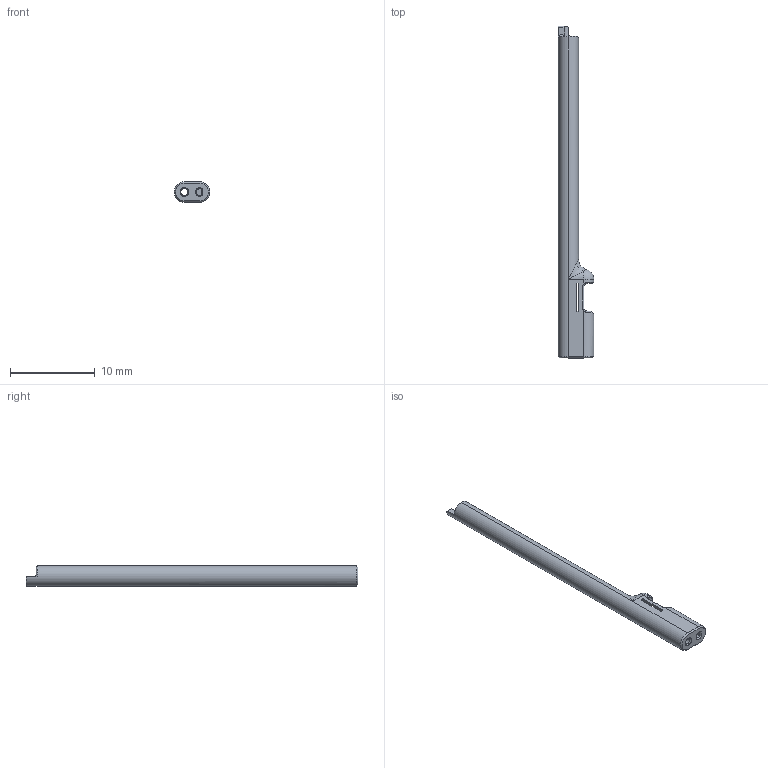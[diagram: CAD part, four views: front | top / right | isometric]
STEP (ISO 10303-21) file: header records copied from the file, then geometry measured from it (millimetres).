
FILE_DESCRIPTION (( 'STEP AP214' ), '1' );
FILE_NAME ('TRL-0043-A.STEP', '2021-06-25T20:09:50', ( '' ), ( '' ), 'SwSTEP 2.0', 'SolidWorks 2016', '' );
FILE_SCHEMA (( 'AUTOMOTIVE_DESIGN' ));
Length unit declared in the file: millimetre
Products named in the file (1): TRL-0043-A
Bounding box: 4.2 x 39.2 x 2.4 mm (x, y, z)
Volume: 154.3 mm3; surface area: 499.9 mm2
Topology: 1 solids, 1 shells, 99 faces, 254 edges, 152 vertices
Faces by surface type: cylinder 40, plane 29, cone 17, bspline 10, torus 2, sphere 1
Entity records: 3997 total; most frequent: CARTESIAN_POINT 1685, ORIENTED_EDGE 500, DIRECTION 448, EDGE_CURVE 250, AXIS2_PLACEMENT_3D 164, VERTEX_POINT 151, LINE 120, VECTOR 120
